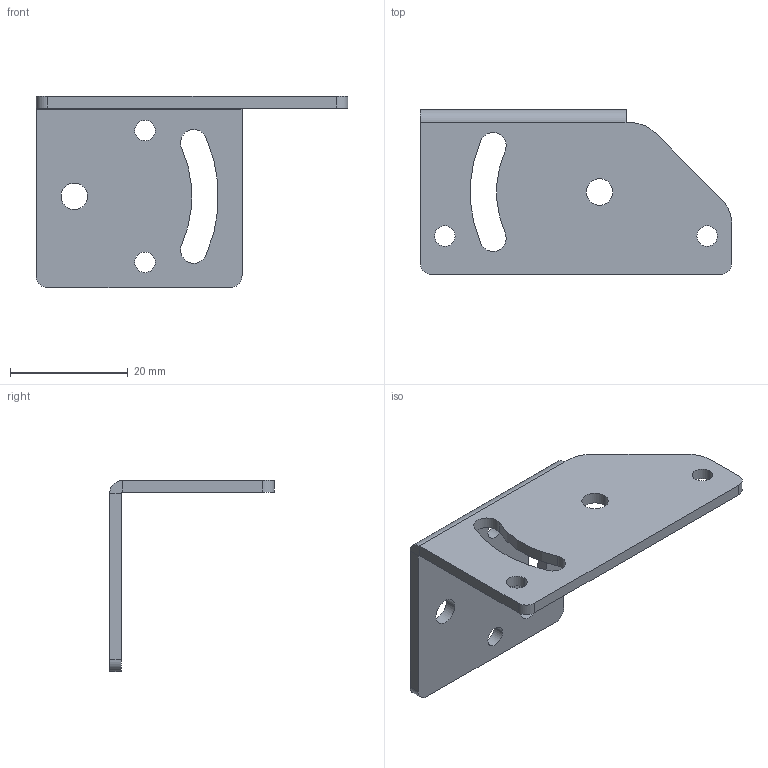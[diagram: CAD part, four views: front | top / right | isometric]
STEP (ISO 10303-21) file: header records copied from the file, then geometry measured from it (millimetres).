
FILE_DESCRIPTION((''),'2;1');
FILE_NAME('DE-11-107728','2026-04-22T11:52:12',('yangxiaobing6'),(''),'CREO PARAMETRIC BY PTC INC, 2020044','CREO PARAMETRIC BY PTC INC, 2020044','');
FILE_SCHEMA(('CONFIG_CONTROL_DESIGN','SHAPE_APPEARANCE_LAYERS_GROUPS'));
Length unit declared in the file: millimetre
Products named in the file (1): DE-11-107728
Bounding box: 53 x 28 x 32.5 mm (x, y, z)
Volume: 4239.9 mm3; surface area: 4999.5 mm2
Topology: 1 solids, 1 shells, 42 faces, 112 edges, 72 vertices
Faces by surface type: cylinder 28, plane 14
Entity records: 1424 total; most frequent: DIRECTION 252, CARTESIAN_POINT 226, ORIENTED_EDGE 224, EDGE_CURVE 112, AXIS2_PLACEMENT_3D 98, VERTEX_POINT 72, EDGE_LOOP 58, VECTOR 56
